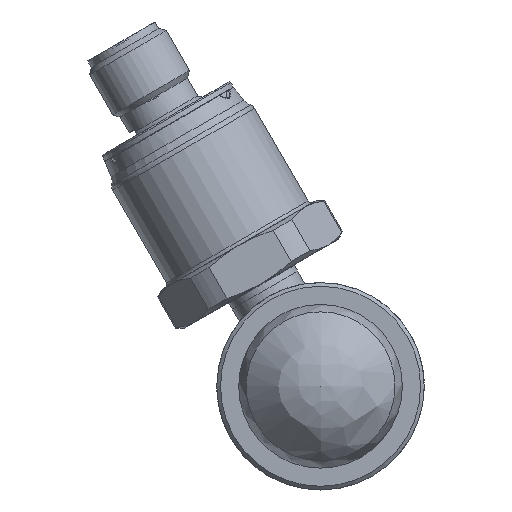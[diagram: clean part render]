
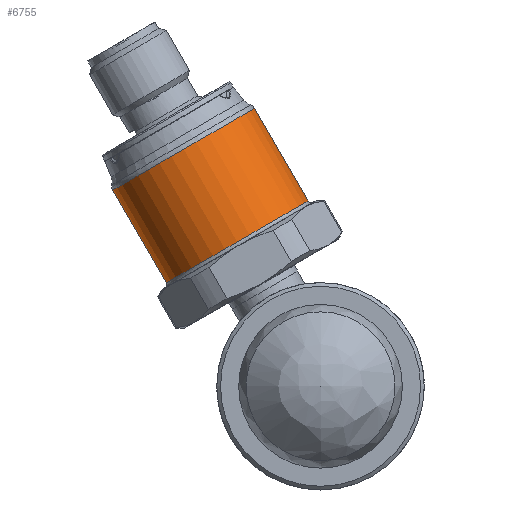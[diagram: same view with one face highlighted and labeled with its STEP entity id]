
A CAD part, front view. The second image highlights one B-rep face of the part: STEP entity #6755.
In plain terms, the highlighted free-form (B-spline) face has degree [8, 1] with [9, 2] control points.
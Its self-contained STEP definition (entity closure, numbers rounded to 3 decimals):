
#148=B_SPLINE_SURFACE_WITH_KNOTS('',8,1,((#17670,#17671),(#17672,#17673),
(#17674,#17675),(#17676,#17677),(#17678,#17679),(#17680,#17681),(#17682,
#17683),(#17684,#17685),(#17686,#17687)),.UNSPECIFIED.,.F.,.F.,.F.,(9,9),
(2,2),(-3.204,0.063),(0.,1.803),.UNSPECIFIED.);
#789=CIRCLE('',#7242,11.05);
#792=CIRCLE('',#7245,11.05);
#1148=FACE_OUTER_BOUND('',#1546,.T.);
#1546=EDGE_LOOP('',(#5503,#5504,#5505,#5506));
#1989=LINE('',#17689,#2381);
#1990=LINE('',#17691,#2382);
#2381=VECTOR('',#8486,14.45);
#2382=VECTOR('',#8487,14.45);
#2896=VERTEX_POINT('',#17665);
#2897=VERTEX_POINT('',#17666);
#2898=VERTEX_POINT('',#17688);
#2899=VERTEX_POINT('',#17690);
#3791=EDGE_CURVE('',#2896,#2897,#789,.T.);
#3794=EDGE_CURVE('',#2896,#2898,#1989,.T.);
#3795=EDGE_CURVE('',#2897,#2899,#1990,.T.);
#3796=EDGE_CURVE('',#2898,#2899,#792,.T.);
#5503=ORIENTED_EDGE('',*,*,#3794,.F.);
#5504=ORIENTED_EDGE('',*,*,#3791,.T.);
#5505=ORIENTED_EDGE('',*,*,#3795,.T.);
#5506=ORIENTED_EDGE('',*,*,#3796,.F.);
#6755=ADVANCED_FACE('',(#1148),#148,.T.);
#7242=AXIS2_PLACEMENT_3D('',#17667,#8480,#8481);
#7245=AXIS2_PLACEMENT_3D('',#17692,#8488,#8489);
#8480=DIRECTION('center_axis',(0.5,0.,-0.866));
#8481=DIRECTION('ref_axis',(0.866,0.,0.5));
#8486=DIRECTION('',(0.5,0.,-0.866));
#8487=DIRECTION('',(0.5,0.,-0.866));
#8488=DIRECTION('center_axis',(0.5,0.,-0.866));
#8489=DIRECTION('ref_axis',(0.866,0.,0.5));
#17665=CARTESIAN_POINT('',(-8.905,143.,37.525));
#17666=CARTESIAN_POINT('',(-28.045,143.,26.475));
#17667=CARTESIAN_POINT('Origin',(-18.475,143.,32.));
#17670=CARTESIAN_POINT('Ctrl Pts',(-9.069,143.694,37.764));
#17671=CARTESIAN_POINT('Ctrl Pts',(-0.052,143.694,
22.146));
#17672=CARTESIAN_POINT('Ctrl Pts',(-8.823,139.19,37.906));
#17673=CARTESIAN_POINT('Ctrl Pts',(0.193,139.19,22.288));
#17674=CARTESIAN_POINT('Ctrl Pts',(-10.399,134.554,36.996));
#17675=CARTESIAN_POINT('Ctrl Pts',(-1.382,134.554,21.379));
#17676=CARTESIAN_POINT('Ctrl Pts',(-13.854,130.93,35.001));
#17677=CARTESIAN_POINT('Ctrl Pts',(-4.837,130.93,19.384));
#17678=CARTESIAN_POINT('Ctrl Pts',(-18.621,129.508,32.249));
#17679=CARTESIAN_POINT('Ctrl Pts',(-9.604,129.508,16.632));
#17680=CARTESIAN_POINT('Ctrl Pts',(-23.384,130.93,29.499));
#17681=CARTESIAN_POINT('Ctrl Pts',(-14.367,130.93,13.882));
#17682=CARTESIAN_POINT('Ctrl Pts',(-26.84,134.554,27.504));
#17683=CARTESIAN_POINT('Ctrl Pts',(-17.824,134.554,11.886));
#17684=CARTESIAN_POINT('Ctrl Pts',(-28.416,139.19,26.594));
#17685=CARTESIAN_POINT('Ctrl Pts',(-19.399,139.19,10.977));
#17686=CARTESIAN_POINT('Ctrl Pts',(-28.17,143.694,26.736));
#17687=CARTESIAN_POINT('Ctrl Pts',(-19.153,143.694,11.118));
#17688=CARTESIAN_POINT('',(-1.68,143.,25.011));
#17689=CARTESIAN_POINT('',(-8.905,143.,37.525));
#17690=CARTESIAN_POINT('',(-20.82,143.,13.961));
#17691=CARTESIAN_POINT('',(-28.045,143.,26.475));
#17692=CARTESIAN_POINT('Origin',(-11.25,143.,19.486));
